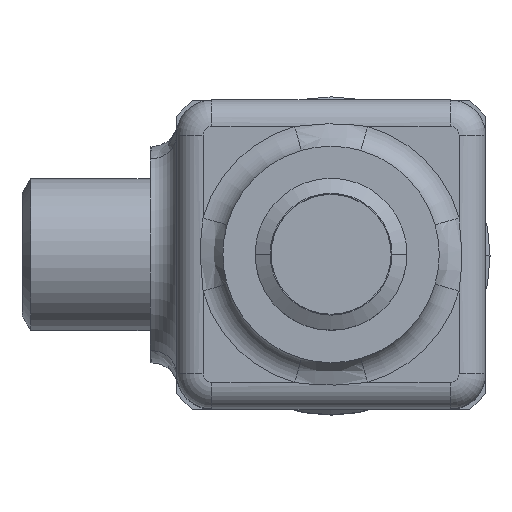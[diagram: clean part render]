
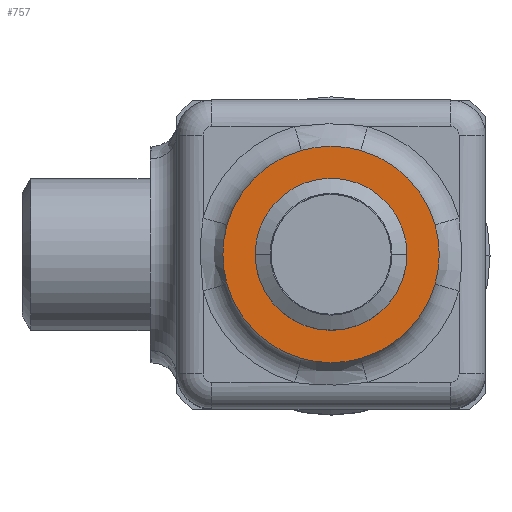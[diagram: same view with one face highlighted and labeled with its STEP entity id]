
A CAD part, top view. The second image highlights one B-rep face of the part: STEP entity #757.
In plain terms, the highlighted planar face has unit normal (0, 0, 1).
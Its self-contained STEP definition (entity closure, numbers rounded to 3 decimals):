
#97 = CARTESIAN_POINT ( 'NONE',  ( 8.6, 0., 35. ) ) ;
#149 = EDGE_CURVE ( 'NONE', #1007, #10156, #4881, .T. ) ;
#356 = CIRCLE ( 'NONE', #357, 8.6 ) ;
#357 = AXIS2_PLACEMENT_3D ( 'NONE', #358, #359, #360 ) ;
#358 = CARTESIAN_POINT ( 'NONE',  ( 0., 0., 35. ) ) ;
#359 = DIRECTION ( 'NONE',  ( 0., 0., 1. ) ) ;
#360 = DIRECTION ( 'NONE',  ( 1., 0., 0. ) ) ;
#469 = VERTEX_POINT ( 'NONE', #5059 ) ;
#505 = ORIENTED_EDGE ( 'NONE', *, *, #149, .T. ) ;
#684 = VERTEX_POINT ( 'NONE', #5171 ) ;
#757 = ADVANCED_FACE ( 'NONE', ( #5197, #5198 ), #5199, .T. ) ;
#899 = EDGE_CURVE ( 'NONE', #684, #469, #5275, .T. ) ;
#1007 = VERTEX_POINT ( 'NONE', #5315 ) ;
#1226 = EDGE_CURVE ( 'NONE', #2097, #1007, #5443, .T. ) ;
#1304 = CARTESIAN_POINT ( 'NONE',  ( -8.6, 0., 35. ) ) ;
#1589 = ORIENTED_EDGE ( 'NONE', *, *, #1226, .T. ) ;
#1716 = EDGE_CURVE ( 'NONE', #2533, #684, #5763, .T. ) ;
#1910 = CARTESIAN_POINT ( 'NONE',  ( -11.78, -3.36, 35. ) ) ;
#2077 = ORIENTED_EDGE ( 'NONE', *, *, #1716, .T. ) ;
#2097 = VERTEX_POINT ( 'NONE', #6839 ) ;
#2301 = EDGE_CURVE ( 'NONE', #469, #2097, #6956, .T. ) ;
#2533 = VERTEX_POINT ( 'NONE', #7160 ) ;
#2657 = ORIENTED_EDGE ( 'NONE', *, *, #4342, .T. ) ;
#3266 = ORIENTED_EDGE ( 'NONE', *, *, #9563, .F. ) ;
#3640 = EDGE_CURVE ( 'NONE', #8271, #2533, #10213, .T. ) ;
#3969 = ORIENTED_EDGE ( 'NONE', *, *, #3640, .T. ) ;
#4007 = VERTEX_POINT ( 'NONE', #1304 ) ;
#4161 = EDGE_LOOP ( 'NONE', ( #4326, #10193, #1589, #505, #2657, #4353, #3969, #2077 ) ) ;
#4280 = EDGE_LOOP ( 'NONE', ( #3266, #4285 ) ) ;
#4285 = ORIENTED_EDGE ( 'NONE', *, *, #4542, .F. ) ;
#4326 = ORIENTED_EDGE ( 'NONE', *, *, #899, .T. ) ;
#4335 = EDGE_CURVE ( 'NONE', #4659, #8271, #9464, .T. ) ;
#4342 = EDGE_CURVE ( 'NONE', #10156, #4659, #9519, .T. ) ;
#4353 = ORIENTED_EDGE ( 'NONE', *, *, #4335, .T. ) ;
#4542 = EDGE_CURVE ( 'NONE', #4007, #9350, #5209, .T. ) ;
#4659 = VERTEX_POINT ( 'NONE', #6831 ) ;
#4881 = CIRCLE ( 'NONE', #4882, 12.25 ) ;
#4882 = AXIS2_PLACEMENT_3D ( 'NONE', #4883, #4884, #4885 ) ;
#4883 = CARTESIAN_POINT ( 'NONE',  ( 0., 0., 35. ) ) ;
#4884 = DIRECTION ( 'NONE',  ( 0., 0., 1. ) ) ;
#4885 = DIRECTION ( 'NONE',  ( 1., 0., 0. ) ) ;
#5059 = CARTESIAN_POINT ( 'NONE',  ( 3.36, 11.78, 35. ) ) ;
#5171 = CARTESIAN_POINT ( 'NONE',  ( 11.78, 3.36, 35. ) ) ;
#5197 = FACE_BOUND ( 'NONE', #4280, .T. ) ;
#5198 = FACE_OUTER_BOUND ( 'NONE', #4161, .T. ) ;
#5199 = PLANE ( 'NONE',  #5200 ) ;
#5200 = AXIS2_PLACEMENT_3D ( 'NONE', #5201, #5202, #5203 ) ;
#5201 = CARTESIAN_POINT ( 'NONE',  ( 0., 0., 35. ) ) ;
#5202 = DIRECTION ( 'NONE',  ( 0., 0., 1. ) ) ;
#5203 = DIRECTION ( 'NONE',  ( 1., 0., 0. ) ) ;
#5209 = CIRCLE ( 'NONE', #5210, 8.6 ) ;
#5210 = AXIS2_PLACEMENT_3D ( 'NONE', #5211, #5214, #5215 ) ;
#5211 = CARTESIAN_POINT ( 'NONE',  ( 0., 0., 35. ) ) ;
#5214 = DIRECTION ( 'NONE',  ( 0., 0., 1. ) ) ;
#5215 = DIRECTION ( 'NONE',  ( 1., 0., 0. ) ) ;
#5275 = CIRCLE ( 'NONE', #5276, 12.25 ) ;
#5276 = AXIS2_PLACEMENT_3D ( 'NONE', #5277, #5278, #5279 ) ;
#5277 = CARTESIAN_POINT ( 'NONE',  ( 0., 0., 35. ) ) ;
#5278 = DIRECTION ( 'NONE',  ( 0., 0., 1. ) ) ;
#5279 = DIRECTION ( 'NONE',  ( 1., 0., 0. ) ) ;
#5315 = CARTESIAN_POINT ( 'NONE',  ( -11.78, 3.36, 35. ) ) ;
#5443 = CIRCLE ( 'NONE', #5444, 12.25 ) ;
#5444 = AXIS2_PLACEMENT_3D ( 'NONE', #5445, #5446, #5447 ) ;
#5445 = CARTESIAN_POINT ( 'NONE',  ( 0., 0., 35. ) ) ;
#5446 = DIRECTION ( 'NONE',  ( 0., 0., 1. ) ) ;
#5447 = DIRECTION ( 'NONE',  ( 1., 0., 0. ) ) ;
#5763 = CIRCLE ( 'NONE', #5764, 12.25 ) ;
#5764 = AXIS2_PLACEMENT_3D ( 'NONE', #5765, #5766, #5767 ) ;
#5765 = CARTESIAN_POINT ( 'NONE',  ( 0., 0., 35. ) ) ;
#5766 = DIRECTION ( 'NONE',  ( 0., 0., 1. ) ) ;
#5767 = DIRECTION ( 'NONE',  ( 1., 0., 0. ) ) ;
#6831 = CARTESIAN_POINT ( 'NONE',  ( -3.36, -11.78, 35. ) ) ;
#6839 = CARTESIAN_POINT ( 'NONE',  ( -3.36, 11.78, 35. ) ) ;
#6956 = CIRCLE ( 'NONE', #6957, 12.25 ) ;
#6957 = AXIS2_PLACEMENT_3D ( 'NONE', #6958, #6959, #6960 ) ;
#6958 = CARTESIAN_POINT ( 'NONE',  ( 0., 0., 35. ) ) ;
#6959 = DIRECTION ( 'NONE',  ( 0., 0., 1. ) ) ;
#6960 = DIRECTION ( 'NONE',  ( 1., 0., 0. ) ) ;
#7160 = CARTESIAN_POINT ( 'NONE',  ( 11.78, -3.36, 35. ) ) ;
#7325 = CARTESIAN_POINT ( 'NONE',  ( 3.36, -11.78, 35. ) ) ;
#8271 = VERTEX_POINT ( 'NONE', #7325 ) ;
#9350 = VERTEX_POINT ( 'NONE', #97 ) ;
#9464 = CIRCLE ( 'NONE', #9465, 12.25 ) ;
#9465 = AXIS2_PLACEMENT_3D ( 'NONE', #9466, #9467, #9468 ) ;
#9466 = CARTESIAN_POINT ( 'NONE',  ( 0., 0., 35. ) ) ;
#9467 = DIRECTION ( 'NONE',  ( 0., 0., 1. ) ) ;
#9468 = DIRECTION ( 'NONE',  ( 1., 0., 0. ) ) ;
#9519 = CIRCLE ( 'NONE', #9520, 12.25 ) ;
#9520 = AXIS2_PLACEMENT_3D ( 'NONE', #9521, #9522, #9523 ) ;
#9521 = CARTESIAN_POINT ( 'NONE',  ( 0., 0., 35. ) ) ;
#9522 = DIRECTION ( 'NONE',  ( 0., 0., 1. ) ) ;
#9523 = DIRECTION ( 'NONE',  ( 1., 0., 0. ) ) ;
#9563 = EDGE_CURVE ( 'NONE', #9350, #4007, #356, .T. ) ;
#10156 = VERTEX_POINT ( 'NONE', #1910 ) ;
#10193 = ORIENTED_EDGE ( 'NONE', *, *, #2301, .T. ) ;
#10213 = CIRCLE ( 'NONE', #10216, 12.25 ) ;
#10216 = AXIS2_PLACEMENT_3D ( 'NONE', #10217, #10218, #10219 ) ;
#10217 = CARTESIAN_POINT ( 'NONE',  ( 0., 0., 35. ) ) ;
#10218 = DIRECTION ( 'NONE',  ( 0., 0., 1. ) ) ;
#10219 = DIRECTION ( 'NONE',  ( 1., 0., 0. ) ) ;
